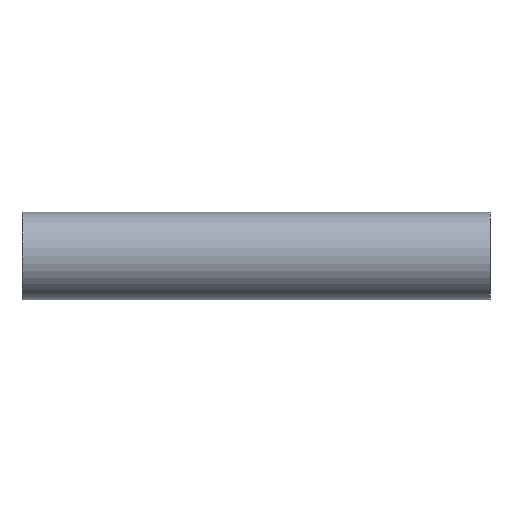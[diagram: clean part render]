
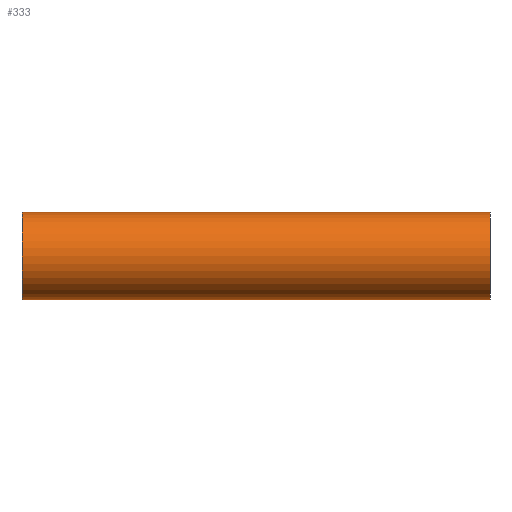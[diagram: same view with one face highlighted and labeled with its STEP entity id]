
A CAD part, front view. The second image highlights one B-rep face of the part: STEP entity #333.
In plain terms, the highlighted cylindrical face has radius 9.525 mm (diameter 19.05 mm), a partial arc.
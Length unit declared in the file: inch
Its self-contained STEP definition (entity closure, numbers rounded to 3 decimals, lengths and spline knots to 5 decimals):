
#2 = EDGE_CURVE ( 'NONE', #362, #222, #452, .T. ) ;
#11 = AXIS2_PLACEMENT_3D ( 'NONE', #298, #289, #24 ) ;
#20 = ORIENTED_EDGE ( 'NONE', *, *, #387, .F. ) ;
#22 = VECTOR ( 'NONE', #131, 39.37008 ) ;
#24 = DIRECTION ( 'NONE',  ( 0., 0., -1. ) ) ;
#25 = ORIENTED_EDGE ( 'NONE', *, *, #435, .F. ) ;
#58 = VERTEX_POINT ( 'NONE', #451 ) ;
#62 = DIRECTION ( 'NONE',  ( -1., 0., 0. ) ) ;
#69 = CARTESIAN_POINT ( 'NONE',  ( 2., 0., 0. ) ) ;
#73 = FACE_OUTER_BOUND ( 'NONE', #210, .T. ) ;
#77 = VERTEX_POINT ( 'NONE', #263 ) ;
#83 = LINE ( 'NONE', #424, #418 ) ;
#95 = CARTESIAN_POINT ( 'NONE',  ( 2., 0., -0.375 ) ) ;
#96 = ORIENTED_EDGE ( 'NONE', *, *, #252, .T. ) ;
#106 = CIRCLE ( 'NONE', #11, 0.375 ) ;
#116 = EDGE_CURVE ( 'NONE', #58, #222, #215, .T. ) ;
#121 = CARTESIAN_POINT ( 'NONE',  ( 2., 0., -0.375 ) ) ;
#131 = DIRECTION ( 'NONE',  ( -1., 0., 0. ) ) ;
#132 = CYLINDRICAL_SURFACE ( 'NONE', #236, 0.375 ) ;
#144 = VERTEX_POINT ( 'NONE', #184 ) ;
#153 = ORIENTED_EDGE ( 'NONE', *, *, #116, .F. ) ;
#154 = LINE ( 'NONE', #394, #22 ) ;
#184 = CARTESIAN_POINT ( 'NONE',  ( 2., 0., -0.375 ) ) ;
#201 = AXIS2_PLACEMENT_3D ( 'NONE', #367, #401, #293 ) ;
#210 = EDGE_LOOP ( 'NONE', ( #25, #20, #310, #96, #325, #153 ) ) ;
#215 = LINE ( 'NONE', #121, #271 ) ;
#217 = CARTESIAN_POINT ( 'NONE',  ( -2., 0., -0.375 ) ) ;
#222 = VERTEX_POINT ( 'NONE', #217 ) ;
#235 = CARTESIAN_POINT ( 'NONE',  ( -2., 0., 0.375 ) ) ;
#236 = AXIS2_PLACEMENT_3D ( 'NONE', #69, #372, #454 ) ;
#244 = VERTEX_POINT ( 'NONE', #292 ) ;
#252 = EDGE_CURVE ( 'NONE', #244, #362, #83, .T. ) ;
#263 = CARTESIAN_POINT ( 'NONE',  ( 2., 0., 0.375 ) ) ;
#271 = VECTOR ( 'NONE', #290, 39.37008 ) ;
#289 = DIRECTION ( 'NONE',  ( 1., 0., 0. ) ) ;
#290 = DIRECTION ( 'NONE',  ( -1., 0., 0. ) ) ;
#292 = CARTESIAN_POINT ( 'NONE',  ( 0., 0., 0.375 ) ) ;
#293 = DIRECTION ( 'NONE',  ( 0., 0., -1. ) ) ;
#298 = CARTESIAN_POINT ( 'NONE',  ( 2., 0., 0. ) ) ;
#310 = ORIENTED_EDGE ( 'NONE', *, *, #442, .T. ) ;
#325 = ORIENTED_EDGE ( 'NONE', *, *, #2, .T. ) ;
#333 = ADVANCED_FACE ( 'NONE', ( #73 ), #132, .T. ) ;
#362 = VERTEX_POINT ( 'NONE', #235 ) ;
#367 = CARTESIAN_POINT ( 'NONE',  ( -2., 0., 0. ) ) ;
#372 = DIRECTION ( 'NONE',  ( -1., 0., 0. ) ) ;
#382 = VECTOR ( 'NONE', #62, 39.37008 ) ;
#387 = EDGE_CURVE ( 'NONE', #77, #144, #106, .T. ) ;
#392 = DIRECTION ( 'NONE',  ( -1., 0., 0. ) ) ;
#394 = CARTESIAN_POINT ( 'NONE',  ( 2., 0., 0.375 ) ) ;
#398 = LINE ( 'NONE', #95, #382 ) ;
#401 = DIRECTION ( 'NONE',  ( 1., 0., 0. ) ) ;
#418 = VECTOR ( 'NONE', #392, 39.37008 ) ;
#424 = CARTESIAN_POINT ( 'NONE',  ( 2., 0., 0.375 ) ) ;
#435 = EDGE_CURVE ( 'NONE', #144, #58, #398, .T. ) ;
#442 = EDGE_CURVE ( 'NONE', #77, #244, #154, .T. ) ;
#451 = CARTESIAN_POINT ( 'NONE',  ( 0., 0., -0.375 ) ) ;
#452 = CIRCLE ( 'NONE', #201, 0.375 ) ;
#454 = DIRECTION ( 'NONE',  ( 0., 0., 1. ) ) ;
